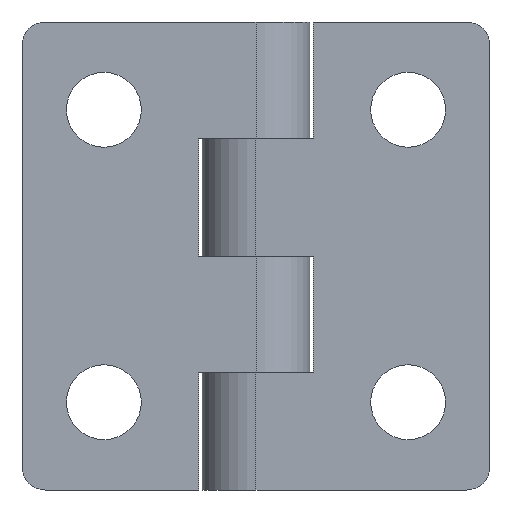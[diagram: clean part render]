
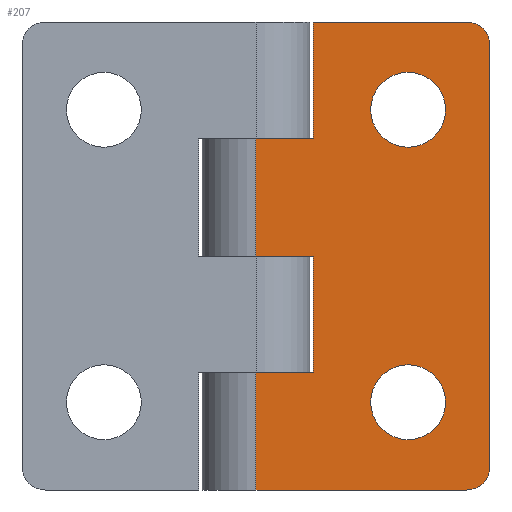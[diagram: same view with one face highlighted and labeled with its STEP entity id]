
A CAD part, front view. The second image highlights one B-rep face of the part: STEP entity #207.
In plain terms, the highlighted planar face has unit normal (0, -1, 0).
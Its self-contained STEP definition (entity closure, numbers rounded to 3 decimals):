
#15 = CARTESIAN_POINT ( 'NONE',  ( 0., 0., 20. ) ) ;
#30 = LINE ( 'NONE', #1206, #330 ) ;
#51 = VERTEX_POINT ( 'NONE', #1029 ) ;
#52 = VECTOR ( 'NONE', #90, 1000. ) ;
#59 = ORIENTED_EDGE ( 'NONE', *, *, #863, .T. ) ;
#74 = AXIS2_PLACEMENT_3D ( 'NONE', #1187, #118, #664 ) ;
#77 = DIRECTION ( 'NONE',  ( 0., 0., -1. ) ) ;
#84 = DIRECTION ( 'NONE',  ( 0., 0., 1. ) ) ;
#90 = DIRECTION ( 'NONE',  ( 1., 0., 0. ) ) ;
#98 = VERTEX_POINT ( 'NONE', #944 ) ;
#114 = AXIS2_PLACEMENT_3D ( 'NONE', #1365, #287, #708 ) ;
#118 = DIRECTION ( 'NONE',  ( 0., 1., 0. ) ) ;
#138 = VECTOR ( 'NONE', #305, 1000. ) ;
#154 = VERTEX_POINT ( 'NONE', #769 ) ;
#159 = DIRECTION ( 'NONE',  ( 0., 0., -1. ) ) ;
#164 = AXIS2_PLACEMENT_3D ( 'NONE', #434, #756, #868 ) ;
#191 = VERTEX_POINT ( 'NONE', #1071 ) ;
#197 = CARTESIAN_POINT ( 'NONE',  ( 4.9, 0., 10. ) ) ;
#207 = ADVANCED_FACE ( 'NONE', ( #1063, #1091, #539 ), #333, .F. ) ;
#234 = VECTOR ( 'NONE', #672, 1000. ) ;
#259 = VERTEX_POINT ( 'NONE', #867 ) ;
#280 = DIRECTION ( 'NONE',  ( 0., 0., -1. ) ) ;
#287 = DIRECTION ( 'NONE',  ( 0., 1., 0. ) ) ;
#303 = EDGE_CURVE ( 'NONE', #1332, #718, #30, .T. ) ;
#305 = DIRECTION ( 'NONE',  ( 0., 0., -1. ) ) ;
#311 = LINE ( 'NONE', #1064, #138 ) ;
#321 = CARTESIAN_POINT ( 'NONE',  ( 20., 0., 20. ) ) ;
#322 = ORIENTED_EDGE ( 'NONE', *, *, #632, .T. ) ;
#330 = VECTOR ( 'NONE', #793, 1000. ) ;
#333 = PLANE ( 'NONE',  #74 ) ;
#335 = CARTESIAN_POINT ( 'NONE',  ( -4.6, 0., 0. ) ) ;
#348 = DIRECTION ( 'NONE',  ( -1., 0., 0. ) ) ;
#358 = CARTESIAN_POINT ( 'NONE',  ( 13., 0., -12.5 ) ) ;
#371 = VECTOR ( 'NONE', #1214, 1000. ) ;
#373 = ORIENTED_EDGE ( 'NONE', *, *, #1400, .T. ) ;
#379 = ORIENTED_EDGE ( 'NONE', *, *, #1121, .T. ) ;
#381 = CIRCLE ( 'NONE', #1352, 3.2 ) ;
#399 = EDGE_CURVE ( 'NONE', #51, #154, #1316, .T. ) ;
#403 = DIRECTION ( 'NONE',  ( 0., 1., 0. ) ) ;
#412 = VERTEX_POINT ( 'NONE', #1240 ) ;
#419 = VECTOR ( 'NONE', #1073, 1000. ) ;
#434 = CARTESIAN_POINT ( 'NONE',  ( 13., 0., 12.5 ) ) ;
#435 = LINE ( 'NONE', #335, #52 ) ;
#445 = CIRCLE ( 'NONE', #704, 2. ) ;
#453 = LINE ( 'NONE', #891, #740 ) ;
#466 = CARTESIAN_POINT ( 'NONE',  ( 13., 0., 12.5 ) ) ;
#501 = EDGE_CURVE ( 'NONE', #412, #1008, #435, .T. ) ;
#506 = CARTESIAN_POINT ( 'NONE',  ( 20., 0., -18. ) ) ;
#522 = ORIENTED_EDGE ( 'NONE', *, *, #399, .T. ) ;
#530 = CIRCLE ( 'NONE', #719, 3.2 ) ;
#539 = FACE_OUTER_BOUND ( 'NONE', #801, .T. ) ;
#541 = CARTESIAN_POINT ( 'NONE',  ( 0., 0., 10. ) ) ;
#553 = CARTESIAN_POINT ( 'NONE',  ( 13., 0., 15.7 ) ) ;
#566 = VERTEX_POINT ( 'NONE', #541 ) ;
#582 = VERTEX_POINT ( 'NONE', #1406 ) ;
#585 = EDGE_CURVE ( 'NONE', #838, #1191, #884, .T. ) ;
#586 = VECTOR ( 'NONE', #159, 1000. ) ;
#589 = LINE ( 'NONE', #15, #586 ) ;
#597 = CARTESIAN_POINT ( 'NONE',  ( 20., 0., 18. ) ) ;
#598 = ORIENTED_EDGE ( 'NONE', *, *, #1373, .T. ) ;
#632 = EDGE_CURVE ( 'NONE', #98, #582, #652, .T. ) ;
#635 = DIRECTION ( 'NONE',  ( 0., -1., 0. ) ) ;
#636 = ORIENTED_EDGE ( 'NONE', *, *, #1322, .T. ) ;
#647 = CIRCLE ( 'NONE', #114, 3.2 ) ;
#651 = CARTESIAN_POINT ( 'NONE',  ( 4.9, 0., 20. ) ) ;
#652 = LINE ( 'NONE', #889, #419 ) ;
#664 = DIRECTION ( 'NONE',  ( 0., 0., 1. ) ) ;
#672 = DIRECTION ( 'NONE',  ( 0., 0., -1. ) ) ;
#691 = LINE ( 'NONE', #1112, #950 ) ;
#698 = CARTESIAN_POINT ( 'NONE',  ( 18., 0., 20. ) ) ;
#704 = AXIS2_PLACEMENT_3D ( 'NONE', #1125, #1339, #993 ) ;
#708 = DIRECTION ( 'NONE',  ( 0., 0., 1. ) ) ;
#717 = AXIS2_PLACEMENT_3D ( 'NONE', #859, #635, #84 ) ;
#718 = VERTEX_POINT ( 'NONE', #698 ) ;
#719 = AXIS2_PLACEMENT_3D ( 'NONE', #466, #403, #1149 ) ;
#739 = CIRCLE ( 'NONE', #717, 2. ) ;
#740 = VECTOR ( 'NONE', #348, 1000. ) ;
#756 = DIRECTION ( 'NONE',  ( 0., 1., 0. ) ) ;
#769 = CARTESIAN_POINT ( 'NONE',  ( 0., 0., -10. ) ) ;
#789 = EDGE_CURVE ( 'NONE', #582, #1191, #445, .T. ) ;
#793 = DIRECTION ( 'NONE',  ( 1., 0., 0. ) ) ;
#800 = CARTESIAN_POINT ( 'NONE',  ( -4.6, 0., -10. ) ) ;
#801 = EDGE_LOOP ( 'NONE', ( #636, #1313, #379, #885, #59, #522, #1287, #322, #1375, #870, #598, #1074 ) ) ;
#834 = ORIENTED_EDGE ( 'NONE', *, *, #925, .T. ) ;
#835 = EDGE_CURVE ( 'NONE', #154, #98, #589, .T. ) ;
#838 = VERTEX_POINT ( 'NONE', #597 ) ;
#848 = CIRCLE ( 'NONE', #164, 3.2 ) ;
#859 = CARTESIAN_POINT ( 'NONE',  ( 18., 0., 18. ) ) ;
#863 = EDGE_CURVE ( 'NONE', #1008, #51, #691, .T. ) ;
#867 = CARTESIAN_POINT ( 'NONE',  ( 13., 0., -9.3 ) ) ;
#868 = DIRECTION ( 'NONE',  ( 0., 0., 1. ) ) ;
#870 = ORIENTED_EDGE ( 'NONE', *, *, #585, .F. ) ;
#872 = VECTOR ( 'NONE', #77, 1000. ) ;
#884 = LINE ( 'NONE', #321, #234 ) ;
#885 = ORIENTED_EDGE ( 'NONE', *, *, #501, .T. ) ;
#889 = CARTESIAN_POINT ( 'NONE',  ( 0., 0., -20. ) ) ;
#891 = CARTESIAN_POINT ( 'NONE',  ( -4.6, 0., 10. ) ) ;
#896 = DIRECTION ( 'NONE',  ( 0., 0., 1. ) ) ;
#901 = EDGE_LOOP ( 'NONE', ( #1128, #834 ) ) ;
#919 = DIRECTION ( 'NONE',  ( 0., 1., 0. ) ) ;
#921 = ORIENTED_EDGE ( 'NONE', *, *, #1045, .T. ) ;
#925 = EDGE_CURVE ( 'NONE', #1268, #259, #381, .T. ) ;
#932 = LINE ( 'NONE', #1250, #872 ) ;
#944 = CARTESIAN_POINT ( 'NONE',  ( 0., 0., -20. ) ) ;
#950 = VECTOR ( 'NONE', #280, 1000. ) ;
#993 = DIRECTION ( 'NONE',  ( 0., 0., 1. ) ) ;
#1001 = CARTESIAN_POINT ( 'NONE',  ( 4.9, 0., 0. ) ) ;
#1008 = VERTEX_POINT ( 'NONE', #1001 ) ;
#1018 = EDGE_CURVE ( 'NONE', #1372, #566, #453, .T. ) ;
#1029 = CARTESIAN_POINT ( 'NONE',  ( 4.9, 0., -10. ) ) ;
#1045 = EDGE_CURVE ( 'NONE', #191, #1237, #530, .T. ) ;
#1063 = FACE_BOUND ( 'NONE', #901, .T. ) ;
#1064 = CARTESIAN_POINT ( 'NONE',  ( 4.9, 0., 20. ) ) ;
#1071 = CARTESIAN_POINT ( 'NONE',  ( 13., 0., 9.3 ) ) ;
#1073 = DIRECTION ( 'NONE',  ( 1., 0., 0. ) ) ;
#1074 = ORIENTED_EDGE ( 'NONE', *, *, #303, .F. ) ;
#1087 = EDGE_CURVE ( 'NONE', #259, #1268, #647, .T. ) ;
#1091 = FACE_BOUND ( 'NONE', #1398, .T. ) ;
#1112 = CARTESIAN_POINT ( 'NONE',  ( 4.9, 0., 0. ) ) ;
#1121 = EDGE_CURVE ( 'NONE', #566, #412, #932, .T. ) ;
#1125 = CARTESIAN_POINT ( 'NONE',  ( 18., 0., -18. ) ) ;
#1128 = ORIENTED_EDGE ( 'NONE', *, *, #1087, .T. ) ;
#1149 = DIRECTION ( 'NONE',  ( 0., 0., 1. ) ) ;
#1187 = CARTESIAN_POINT ( 'NONE',  ( 0., 0., 20. ) ) ;
#1191 = VERTEX_POINT ( 'NONE', #506 ) ;
#1206 = CARTESIAN_POINT ( 'NONE',  ( 0., 0., 20. ) ) ;
#1214 = DIRECTION ( 'NONE',  ( -1., 0., 0. ) ) ;
#1237 = VERTEX_POINT ( 'NONE', #553 ) ;
#1240 = CARTESIAN_POINT ( 'NONE',  ( 0., 0., 0. ) ) ;
#1250 = CARTESIAN_POINT ( 'NONE',  ( 0., 0., 20. ) ) ;
#1268 = VERTEX_POINT ( 'NONE', #1279 ) ;
#1279 = CARTESIAN_POINT ( 'NONE',  ( 13., 0., -15.7 ) ) ;
#1287 = ORIENTED_EDGE ( 'NONE', *, *, #835, .T. ) ;
#1313 = ORIENTED_EDGE ( 'NONE', *, *, #1018, .T. ) ;
#1316 = LINE ( 'NONE', #800, #371 ) ;
#1322 = EDGE_CURVE ( 'NONE', #1332, #1372, #311, .T. ) ;
#1332 = VERTEX_POINT ( 'NONE', #651 ) ;
#1339 = DIRECTION ( 'NONE',  ( 0., -1., 0. ) ) ;
#1352 = AXIS2_PLACEMENT_3D ( 'NONE', #358, #919, #896 ) ;
#1365 = CARTESIAN_POINT ( 'NONE',  ( 13., 0., -12.5 ) ) ;
#1372 = VERTEX_POINT ( 'NONE', #197 ) ;
#1373 = EDGE_CURVE ( 'NONE', #838, #718, #739, .T. ) ;
#1375 = ORIENTED_EDGE ( 'NONE', *, *, #789, .T. ) ;
#1398 = EDGE_LOOP ( 'NONE', ( #373, #921 ) ) ;
#1400 = EDGE_CURVE ( 'NONE', #1237, #191, #848, .T. ) ;
#1406 = CARTESIAN_POINT ( 'NONE',  ( 18., 0., -20. ) ) ;
